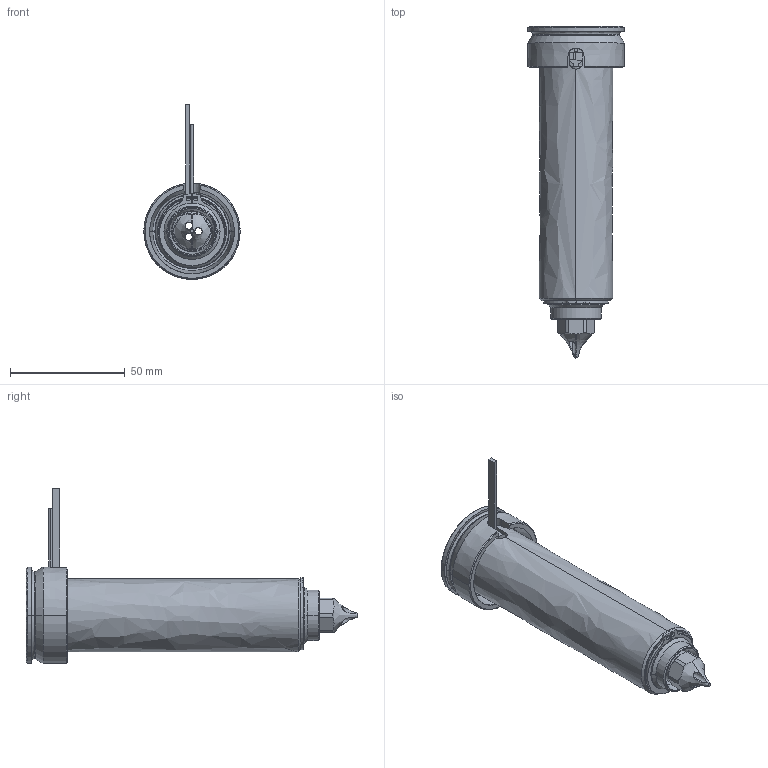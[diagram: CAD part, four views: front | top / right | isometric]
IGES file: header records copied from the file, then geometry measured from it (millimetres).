
Start section: SolidWorks IGES file using analytic representation for surfaces
Global section: file name: C:\Users\luca.EMPAD\Desktop\TEM\UGDL3614-S-A-1 [Øf=1.7 ØC=09].IGS; native system: SolidWorks 2012; preprocessor: SolidWorks 2012; author: luca; date: 120330.155753; units: millimetre
Bounding box: 42 x 144.8 x 76.3 mm (x, y, z)
Surface area: 46623.1 mm2 (no closed solid volume)
Topology: 0 solids, 0 shells, 126 faces, 2244 edges, 2244 vertices
Faces by surface type: revolution 81, bspline 45
